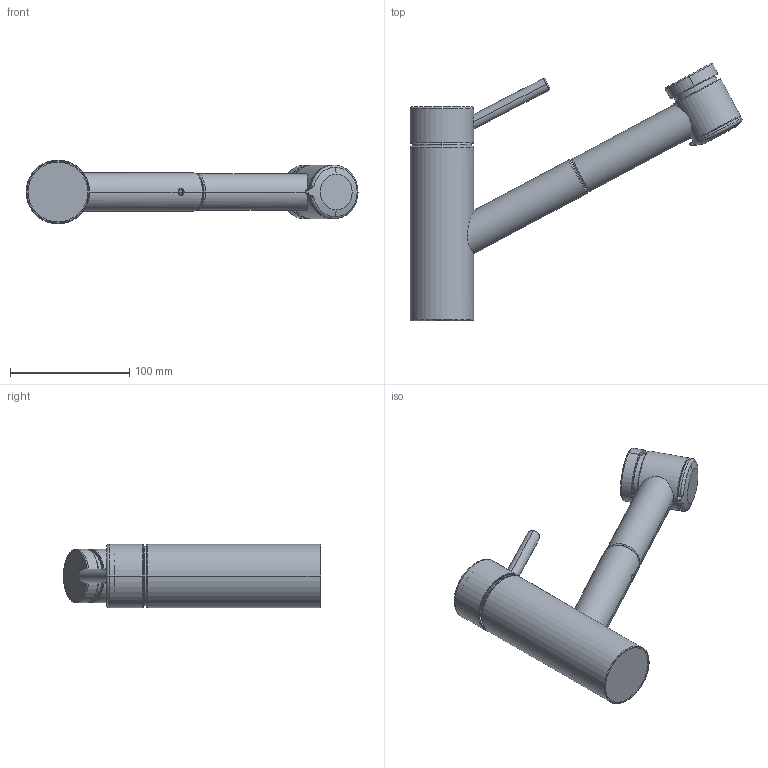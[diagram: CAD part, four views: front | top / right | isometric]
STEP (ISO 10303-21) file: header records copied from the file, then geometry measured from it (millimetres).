
FILE_DESCRIPTION((''),'2;1');
FILE_NAME('10_271_033_XXX','2012-01-04T',('laf'),(''),'PRO/ENGINEER BY PARAMETRIC TECHNOLOGY CORPORATION, 2011080','PRO/ENGINEER BY PARAMETRIC TECHNOLOGY CORPORATION, 2011080','');
FILE_SCHEMA(('AUTOMOTIVE_DESIGN_CC2 { 1 2 10303 214 -1 1 5 2 }'));
Length unit declared in the file: millimetre
Products named in the file (1): 10_271_033_XXX
Bounding box: 278.25 x 215.63 x 53.6 mm (x, y, z)
Volume: 255467.9 mm3; surface area: 122013.1 mm2
Topology: 5 solids, 6 shells, 214 faces, 448 edges, 260 vertices
Faces by surface type: cylinder 81, torus 51, plane 39, cone 22, bspline 15, sphere 6
Entity records: 8449 total; most frequent: CARTESIAN_POINT 2254, DIRECTION 1055, ORIENTED_EDGE 896, AXIS2_PLACEMENT_3D 467, EDGE_CURVE 448, CIRCLE 268, VERTEX_POINT 260, EDGE_LOOP 234
